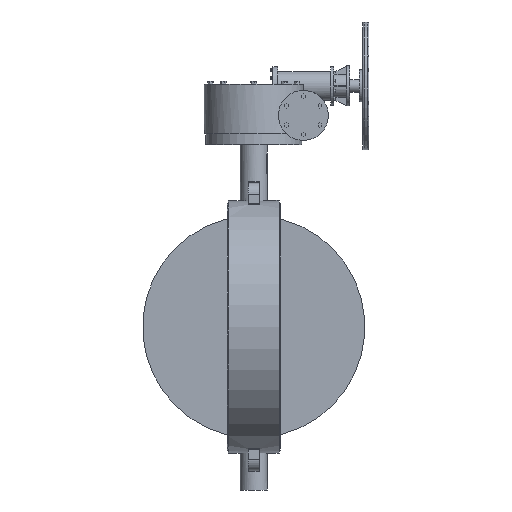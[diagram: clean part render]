
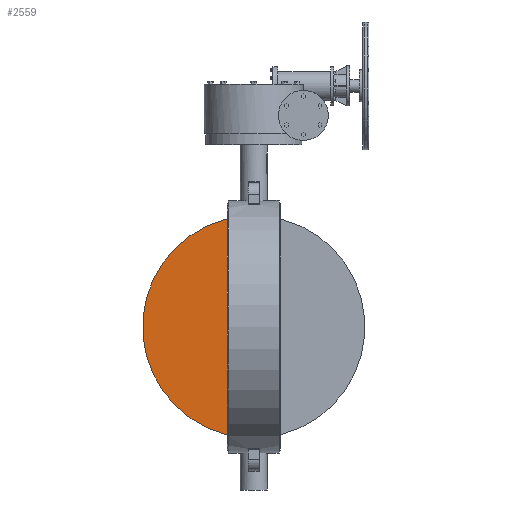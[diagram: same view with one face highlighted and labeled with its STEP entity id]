
A CAD part, front view. The second image highlights one B-rep face of the part: STEP entity #2559.
In plain terms, the highlighted planar face has unit normal (0, -1, 0).
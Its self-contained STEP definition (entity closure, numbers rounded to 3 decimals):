
#2559=ADVANCED_FACE('',(#7978),#7980,.T.);
#7978=FACE_BOUND('',#7979,.T.);
#7979=EDGE_LOOP('',(#12138,#12139));
#7980=PLANE('',#7981);
#7981=AXIS2_PLACEMENT_3D('',#7982,#7983,#7984);
#7982=CARTESIAN_POINT('',(0.,-10.,0.));
#7983=DIRECTION('',(0.,-1.,0.));
#7984=DIRECTION('',(0.,0.,1.));
#12138=ORIENTED_EDGE('',*,*,#14296,.T.);
#12139=ORIENTED_EDGE('',*,*,#14534,.T.);
#14296=EDGE_CURVE('',#16188,#16185,#16189,.F.);
#14534=EDGE_CURVE('',#16185,#16188,#16552,.T.);
#16185=VERTEX_POINT('',#21113);
#16188=VERTEX_POINT('',#21158);
#16189=LINE('',#21159,#21160);
#16552=CIRCLE('',#22677,347.5);
#21113=CARTESIAN_POINT('',(-30.923,-10.,346.121));
#21158=CARTESIAN_POINT('',(-30.923,-10.,-346.121));
#21159=CARTESIAN_POINT('',(-30.923,-10.,346.121));
#21160=VECTOR('',#21161,1.);
#21161=DIRECTION('',(0.,0.,-1.));
#22677=AXIS2_PLACEMENT_3D('',#22678,#22679,#22680);
#22678=CARTESIAN_POINT('',(0.,-10.,0.));
#22679=DIRECTION('',(0.,-1.,0.));
#22680=DIRECTION('',(-0.089,0.,0.996));
